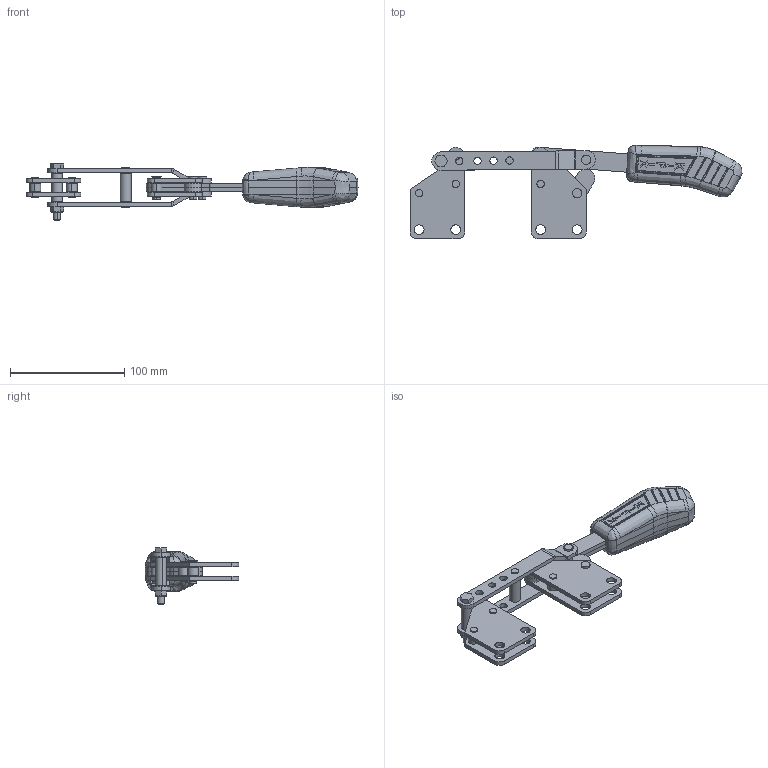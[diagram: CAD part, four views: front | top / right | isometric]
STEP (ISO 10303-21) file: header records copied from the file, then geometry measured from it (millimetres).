
FILE_DESCRIPTION (( 'STEP AP203' ), '1' );
FILE_NAME ('KF-314 R.STEP', '2018-04-24T16:53:50', ( 'Ricardo' ), ( '' ), 'SwSTEP 2.0', 'SolidWorks 2018', '' );
FILE_SCHEMA (( 'CONFIG_CONTROL_DESIGN' ));
Length unit declared in the file: millimetre
Products named in the file (13): 02.11054; 02.10034_Direita; 01.10103; 11.50001; 03.10016; 3670000073; 16.20078; 07.60002; 04.10011; 16.20079; 05.20033; KF-314 R; 12.50002
Assembly tree (22 placements, depth 2):
  KF-314 R
    02.11054  x2
    02.10034_Direita  x2
    01.10103  x2
    03.10016  x2
    16.20078
    04.10011  x2
    05.20033
    12.50002
    11.50001
    3670000073  x3
    07.60002
    16.20079  x4
Bounding box: 290.38 x 81.91 x 49 mm (x, y, z)
Volume: 173197.5 mm3; surface area: 79147.9 mm2
Topology: 22 solids, 22 shells, 699 faces, 1720 edges, 1087 vertices
Faces by surface type: plane 241, cylinder 220, bspline 157, sphere 52, cone 26, torus 3
Entity records: 22271 total; most frequent: CARTESIAN_POINT 8652, ORIENTED_EDGE 2748, DIRECTION 2103, EDGE_CURVE 1374, VERTEX_POINT 867, AXIS2_PLACEMENT_3D 819, EDGE_LOOP 627, ADVANCED_FACE 557
